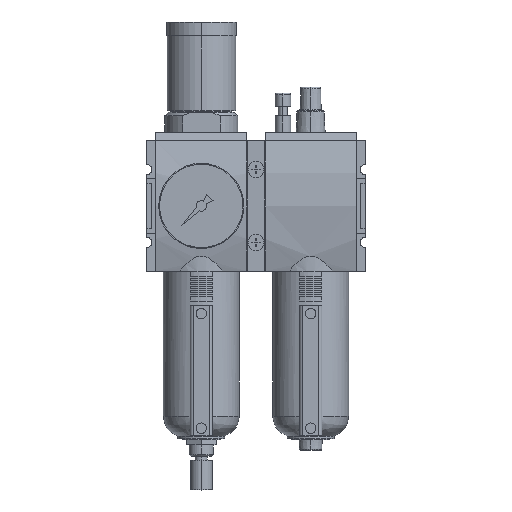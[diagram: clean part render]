
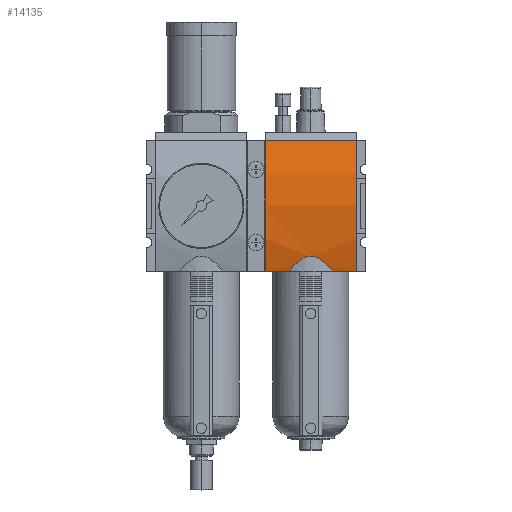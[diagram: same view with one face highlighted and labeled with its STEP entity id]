
A CAD part, top view. The second image highlights one B-rep face of the part: STEP entity #14135.
In plain terms, the highlighted cylindrical face has radius 125 mm (diameter 250 mm), a partial arc.
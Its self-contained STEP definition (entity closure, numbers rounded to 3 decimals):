
#10635=CARTESIAN_POINT('',(-26.25,0.,-88.));
#10636=DIRECTION('',(1.,0.,0.));
#10637=DIRECTION('',(0.,0.3,0.954));
#10638=AXIS2_PLACEMENT_3D('',#10635,#10636,#10637);
#11152=CARTESIAN_POINT('',(26.25,0.,-88.));
#11153=DIRECTION('',(1.,0.,0.));
#11154=DIRECTION('',(0.,0.3,0.954));
#11155=AXIS2_PLACEMENT_3D('',#11152,#11153,#11154);
#11207=DIRECTION('',(1.,0.,0.));
#11208=VECTOR('',#11207,13.886);
#11209=CARTESIAN_POINT('',(-26.25,-37.5,31.242));
#11210=LINE('',#11209,#11208);
#11216=DIRECTION('',(1.,0.,0.));
#11217=VECTOR('',#11216,13.886);
#11218=CARTESIAN_POINT('',(12.364,-37.5,31.242));
#11219=LINE('',#11218,#11217);
#11887=DIRECTION('',(1.,0.,0.));
#11888=VECTOR('',#11887,52.5);
#11889=CARTESIAN_POINT('',(-26.25,37.5,31.242));
#11890=LINE('',#11889,#11888);
#11891=CARTESIAN_POINT('',(12.364,-37.5,31.242));
#11892=CARTESIAN_POINT('',(12.164,-37.248,
31.322));
#11893=CARTESIAN_POINT('',(11.76,-36.748,
31.477));
#11894=CARTESIAN_POINT('',(11.139,-36.008,
31.702));
#11895=CARTESIAN_POINT('',(10.502,-35.279,
31.919));
#11896=CARTESIAN_POINT('',(9.847,-34.563,
32.127));
#11897=CARTESIAN_POINT('',(9.171,-33.862,
32.327));
#11898=CARTESIAN_POINT('',(8.477,-33.183,
32.516));
#11899=CARTESIAN_POINT('',(7.768,-32.534,
32.693));
#11900=CARTESIAN_POINT('',(7.042,-31.919,
32.857));
#11901=CARTESIAN_POINT('',(6.313,-31.354,
33.004));
#11902=CARTESIAN_POINT('',(5.604,-30.857,
33.132));
#11903=CARTESIAN_POINT('',(4.942,-30.442,
33.237));
#11904=CARTESIAN_POINT('',(4.339,-30.106,
33.32));
#11905=CARTESIAN_POINT('',(3.772,-29.828,
33.389));
#11906=CARTESIAN_POINT('',(3.223,-29.593,
33.446));
#11907=CARTESIAN_POINT('',(2.694,-29.401,
33.493));
#11908=CARTESIAN_POINT('',(2.182,-29.247,
33.53));
#11909=CARTESIAN_POINT('',(1.684,-29.128,
33.559));
#11910=CARTESIAN_POINT('',(1.196,-29.04,
33.58));
#11911=CARTESIAN_POINT('',(0.717,-28.983,
33.593));
#11912=CARTESIAN_POINT('',(0.239,-28.955,
33.6));
#11913=CARTESIAN_POINT('',(-0.237,-28.955,
33.6));
#11914=CARTESIAN_POINT('',(-0.714,-28.983,
33.594));
#11915=CARTESIAN_POINT('',(-1.194,-29.04,
33.58));
#11916=CARTESIAN_POINT('',(-1.681,-29.127,
33.559));
#11917=CARTESIAN_POINT('',(-2.18,-29.246,
33.53));
#11918=CARTESIAN_POINT('',(-2.691,-29.4,
33.493));
#11919=CARTESIAN_POINT('',(-3.221,-29.592,
33.447));
#11920=CARTESIAN_POINT('',(-3.769,-29.826,
33.389));
#11921=CARTESIAN_POINT('',(-4.336,-30.105,
33.321));
#11922=CARTESIAN_POINT('',(-4.939,-30.441,
33.237));
#11923=CARTESIAN_POINT('',(-5.601,-30.855,
33.132));
#11924=CARTESIAN_POINT('',(-6.31,-31.351,
33.005));
#11925=CARTESIAN_POINT('',(-7.038,-31.916,
32.857));
#11926=CARTESIAN_POINT('',(-7.763,-32.53,
32.694));
#11927=CARTESIAN_POINT('',(-8.473,-33.179,
32.517));
#11928=CARTESIAN_POINT('',(-9.167,-33.858,
32.328));
#11929=CARTESIAN_POINT('',(-9.843,-34.559,
32.128));
#11930=CARTESIAN_POINT('',(-10.499,-35.276,
31.92));
#11931=CARTESIAN_POINT('',(-11.137,-36.006,
31.703));
#11932=CARTESIAN_POINT('',(-11.759,-36.747,
31.477));
#11933=CARTESIAN_POINT('',(-12.164,-37.248,
31.322));
#11934=CARTESIAN_POINT('',(-12.364,-37.5,31.242));
#12262=CARTESIAN_POINT('',(-26.25,-37.5,31.242));
#12264=VERTEX_POINT('',#12262);
#12266=CARTESIAN_POINT('',(26.25,-37.5,31.242));
#12268=VERTEX_POINT('',#12266);
#12318=CARTESIAN_POINT('',(-12.364,-37.5,31.242));
#12319=VERTEX_POINT('',#12318);
#12320=CARTESIAN_POINT('',(12.364,-37.5,31.242));
#12321=VERTEX_POINT('',#12320);
#12582=CARTESIAN_POINT('',(-26.25,37.5,31.242));
#12583=VERTEX_POINT('',#12582);
#12586=CARTESIAN_POINT('',(26.25,37.5,31.242));
#12587=VERTEX_POINT('',#12586);
#14121=CARTESIAN_POINT('',(-26.25,0.,-88.));
#14122=DIRECTION('',(1.,0.,0.));
#14123=DIRECTION('',(0.,0.,-1.));
#14124=AXIS2_PLACEMENT_3D('',#14121,#14122,#14123);
#14125=CYLINDRICAL_SURFACE('',#14124,125.);
#14126=ORIENTED_EDGE('',*,*,#12711,.F.);
#14127=ORIENTED_EDGE('',*,*,#13419,.T.);
#14128=ORIENTED_EDGE('',*,*,#13274,.T.);
#14129=ORIENTED_EDGE('',*,*,#13335,.F.);
#14131=ORIENTED_EDGE('',*,*,#14130,.T.);
#14132=ORIENTED_EDGE('',*,*,#13331,.F.);
#14133=EDGE_LOOP('',(#14126,#14127,#14128,#14129,#14131,#14132));
#14134=FACE_OUTER_BOUND('',#14133,.F.);
#14135=ADVANCED_FACE('',(#14134),#14125,.T.);
#10639=CIRCLE('',#10638,125.);
#11156=CIRCLE('',#11155,125.);
#11935=B_SPLINE_CURVE_WITH_KNOTS('',3,(#11891,#11892,#11893,#11894,#11895,
#11896,#11897,#11898,#11899,#11900,#11901,#11902,#11903,#11904,#11905,#11906,
#11907,#11908,#11909,#11910,#11911,#11912,#11913,#11914,#11915,#11916,#11917,
#11918,#11919,#11920,#11921,#11922,#11923,#11924,#11925,#11926,#11927,#11928,
#11929,#11930,#11931,#11932,#11933,#11934),.UNSPECIFIED.,.F.,.F.,(4,1,1,1,1,1,1,
1,1,1,1,1,1,1,1,1,1,1,1,1,1,1,1,1,1,1,1,1,1,1,1,1,1,1,1,1,1,1,1,1,1,4),(0.,
0.024,0.049,0.073,0.098,
0.122,0.146,0.171,0.195,
0.22,0.244,0.268,0.293,
0.317,0.341,0.366,0.39,
0.415,0.439,0.463,0.488,
0.512,0.537,0.561,0.585,
0.61,0.634,0.659,0.683,
0.707,0.732,0.756,0.78,
0.805,0.829,0.854,0.878,
0.902,0.927,0.951,0.976,1.),
.UNSPECIFIED.);
#12711=EDGE_CURVE('',#12583,#12264,#10639,.T.);
#13274=EDGE_CURVE('',#12587,#12268,#11156,.T.);
#13331=EDGE_CURVE('',#12264,#12319,#11210,.T.);
#13335=EDGE_CURVE('',#12321,#12268,#11219,.T.);
#13419=EDGE_CURVE('',#12583,#12587,#11890,.T.);
#14130=EDGE_CURVE('',#12321,#12319,#11935,.T.);
